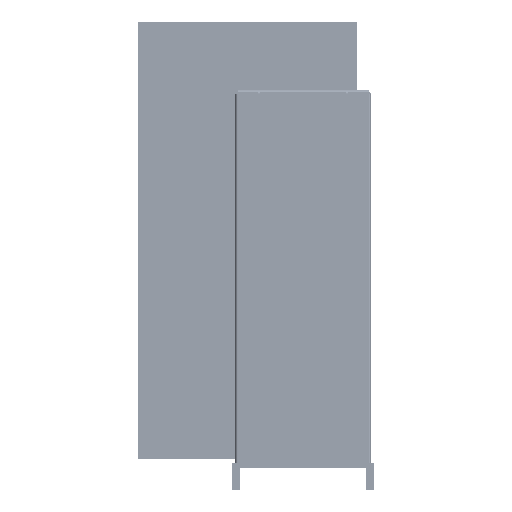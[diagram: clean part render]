
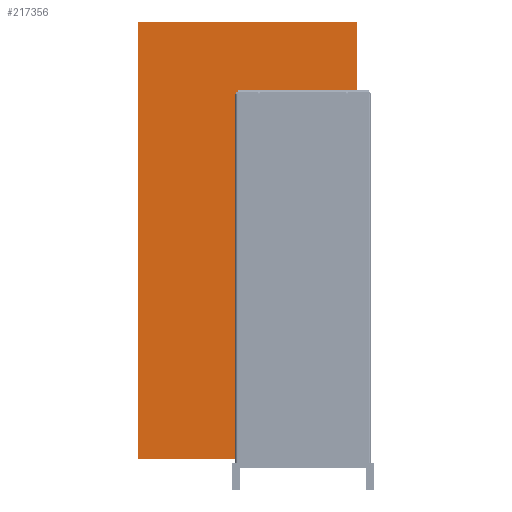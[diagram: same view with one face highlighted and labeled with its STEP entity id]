
A CAD part, front view. The second image highlights one B-rep face of the part: STEP entity #217356.
In plain terms, the highlighted planar face has unit normal (0, -1, 0).
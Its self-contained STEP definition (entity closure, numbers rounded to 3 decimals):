
#82442=ORIENTED_EDGE('',*,*,#112962,.F.);
#82443=ORIENTED_EDGE('',*,*,#112963,.T.);
#82444=ORIENTED_EDGE('',*,*,#112964,.F.);
#82445=ORIENTED_EDGE('',*,*,#112965,.T.);
#82446=ORIENTED_EDGE('',*,*,#112966,.T.);
#82447=ORIENTED_EDGE('',*,*,#112967,.F.);
#82448=ORIENTED_EDGE('',*,*,#112968,.F.);
#82449=ORIENTED_EDGE('',*,*,#112969,.F.);
#112962=EDGE_CURVE('',#132404,#132405,#150418,.T.);
#112963=EDGE_CURVE('',#132404,#132406,#150419,.T.);
#112964=EDGE_CURVE('',#132407,#132406,#150420,.T.);
#112965=EDGE_CURVE('',#132407,#132408,#150421,.T.);
#112966=EDGE_CURVE('',#132408,#132409,#150422,.T.);
#112967=EDGE_CURVE('',#132410,#132409,#150423,.T.);
#112968=EDGE_CURVE('',#132411,#132410,#150424,.T.);
#112969=EDGE_CURVE('',#132405,#132411,#150425,.T.);
#132404=VERTEX_POINT('',#438612);
#132405=VERTEX_POINT('',#438613);
#132406=VERTEX_POINT('',#438615);
#132407=VERTEX_POINT('',#438617);
#132408=VERTEX_POINT('',#438619);
#132409=VERTEX_POINT('',#438621);
#132410=VERTEX_POINT('',#438623);
#132411=VERTEX_POINT('',#438625);
#150418=LINE('',#438611,#168444);
#150419=LINE('',#438614,#168445);
#150420=LINE('',#438616,#168446);
#150421=LINE('',#438618,#168447);
#150422=LINE('',#438620,#168448);
#150423=LINE('',#438622,#168449);
#150424=LINE('',#438624,#168450);
#150425=LINE('',#438626,#168451);
#168444=VECTOR('',#305332,1000.);
#168445=VECTOR('',#305333,1000.);
#168446=VECTOR('',#305334,1000.);
#168447=VECTOR('',#305335,1000.);
#168448=VECTOR('',#305336,1000.);
#168449=VECTOR('',#305337,1000.);
#168450=VECTOR('',#305338,1000.);
#168451=VECTOR('',#305339,1000.);
#183479=EDGE_LOOP('',(#82442,#82443,#82444,#82445,#82446,#82447,#82448,
#82449));
#198491=FACE_BOUND('',#183479,.T.);
#204632=PLANE('',#245161);
#217356=ADVANCED_FACE('',(#198491),#204632,.T.);
#245161=AXIS2_PLACEMENT_3D('',#438610,#305330,#305331);
#305330=DIRECTION('',(0.,-1.,0.));
#305331=DIRECTION('',(1.,0.,0.));
#305332=DIRECTION('',(0.,0.,-1.));
#305333=DIRECTION('',(1.,0.,0.));
#305334=DIRECTION('',(0.,0.,-1.));
#305335=DIRECTION('',(-1.,0.,0.));
#305336=DIRECTION('',(0.,0.,-1.));
#305337=DIRECTION('',(-1.,0.,0.));
#305338=DIRECTION('',(0.,0.,-1.));
#305339=DIRECTION('',(1.,0.,0.));
#438610=CARTESIAN_POINT('',(0.,0.,2000.));
#438611=CARTESIAN_POINT('',(-495.,0.,1152.5));
#438612=CARTESIAN_POINT('',(-495.,0.,1152.5));
#438613=CARTESIAN_POINT('',(-495.,0.,528.5));
#438614=CARTESIAN_POINT('',(-495.,0.,1152.5));
#438615=CARTESIAN_POINT('',(0.,0.,1152.5));
#438616=CARTESIAN_POINT('',(0.,0.,2000.));
#438617=CARTESIAN_POINT('',(0.,0.,2000.));
#438618=CARTESIAN_POINT('',(0.,0.,2000.));
#438619=CARTESIAN_POINT('',(-1000.,0.,2000.));
#438620=CARTESIAN_POINT('',(-1000.,0.,2000.));
#438621=CARTESIAN_POINT('',(-1000.,0.,0.));
#438622=CARTESIAN_POINT('',(0.,0.,0.));
#438623=CARTESIAN_POINT('',(0.,0.,0.));
#438624=CARTESIAN_POINT('',(0.,0.,2000.));
#438625=CARTESIAN_POINT('',(0.,0.,528.5));
#438626=CARTESIAN_POINT('',(-495.,0.,528.5));
